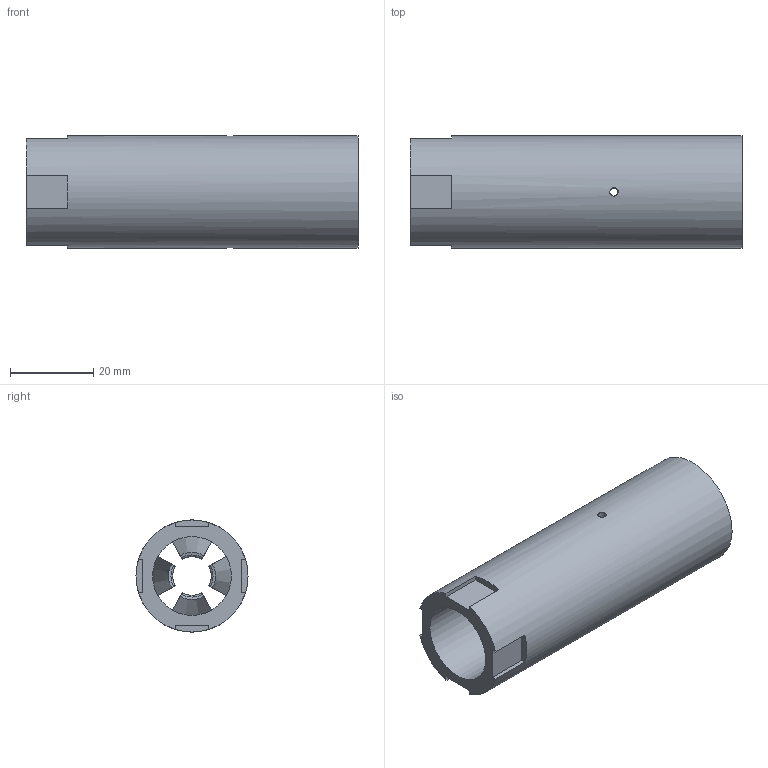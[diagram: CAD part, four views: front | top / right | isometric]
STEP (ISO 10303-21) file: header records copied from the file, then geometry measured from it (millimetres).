
FILE_DESCRIPTION(/* description */ (''),/* implementation_level */ '2;1');
FILE_NAME(/* name */ '',/* time_stamp */ '2026-01-11T12:11:07+03:00',/* author */ ('user'),/* organization */ (''),/* preprocessor_version */ 'ST-DEVELOPER v20.1',/* originating_system */ 'Autodesk Inventor 2026',/* authorisation */ '');
FILE_SCHEMA (('AUTOMOTIVE_DESIGN { 1 0 10303 214 3 1 1 }'));
Length unit declared in the file: millimetre
Products named in the file (1): МАРКЕР
Bounding box: 80 x 27 x 27 mm (x, y, z)
Volume: 18697.2 mm3; surface area: 14000.4 mm2
Topology: 1 solids, 1 shells, 56 faces, 154 edges, 103 vertices
Faces by surface type: plane 27, cone 13, cylinder 8, torus 8
Full cylindrical faces by diameter (mm): 2 x2, 19 x1, 21.4 x1, 23 x1, 27 x1
Entity records: 1994 total; most frequent: CARTESIAN_POINT 462, DIRECTION 318, ORIENTED_EDGE 308, EDGE_CURVE 154, AXIS2_PLACEMENT_3D 119, VERTEX_POINT 102, LINE 80, VECTOR 80
